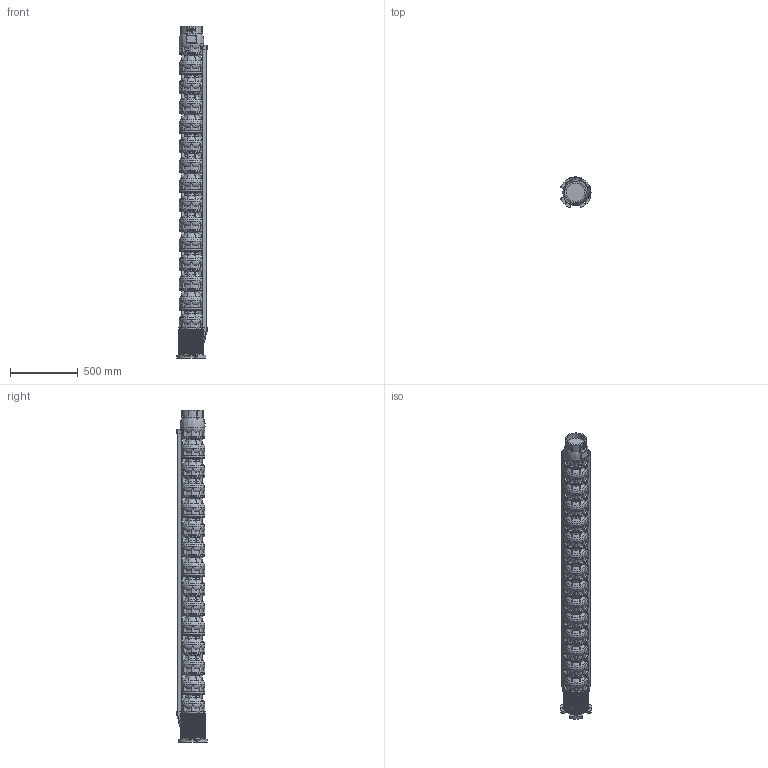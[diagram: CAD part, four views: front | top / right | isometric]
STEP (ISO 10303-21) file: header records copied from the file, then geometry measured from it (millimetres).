
FILE_DESCRIPTION(/* description */ ('Unknown'),/* implementation_level */ '2;1');
FILE_NAME(/* name */ 'VSI134-14_WR_M10-50_SME',/* time_stamp */ '2023-09-14T14:58:02+02:00',/* author */ ('Unknown'),/* organization */ ('Unknown'),/* preprocessor_version */ 'ST-DEVELOPER v18.102',/* originating_system */ 'Solid Edge',/* authorisation */ 'Unknown');
FILE_SCHEMA (('AP203_CONFIGURATION_CONTROLLED_3D_DESIGN_OF_MECHANICAL_PARTS_AND_ASSEMBLIES_MIM_LF { 1 0 10303 203 3 1 4 }','AUTOMOTIVE_DESIGN {1 0 10303 214 3 1 1}'));
Products named in the file (12): VSI134-14_WR_M10-50_SME; VSI134_testata; VSI134_diffusore; VSI134_supporto_8×8; VSI134_adattatore_8×10; VSI134_filtro_A; VSI134_filtro_B; VSI134_terminale_top_copricavo_medio; VSI134_terminale_bottom_copricavo_medio; MID 134-14; M5X8_UNI7687; VSI134_giunto_8×10
Assembly tree (38 placements, depth 2):
  VSI134-14_WR_M10-50_SME
    VSI134_testata
    VSI134_diffusore  x14
    VSI134_supporto_8×8
    VSI134_adattatore_8×10
    VSI134_filtro_A
    VSI134_filtro_B
    VSI134_terminale_top_copricavo_medio  x2
    VSI134_terminale_bottom_copricavo_medio  x2
    MID 134-14  x2
    M5X8_UNI7687  x12
    VSI134_giunto_8×10
Bounding box: 221.78 x 221.78 x 2448 mm (x, y, z)
Volume: 45610315.4 mm3; surface area: 4138524.4 mm2
Topology: 77 solids, 79 shells, 4947 faces, 13905 edges, 9284 vertices
Faces by surface type: plane 3525, torus 658, cylinder 648, cone 71, bspline 31, sphere 14
Full cylindrical faces by diameter (mm): 2.4 x2, 3 x2, 4.2 x16, 5 x12, 5.5 x8, 14 x4, 16 x4, 17.5 x4, 26 x1, 30 x4, 44 x1, 65 x1, 69 x1, 74 x1, 84 x1, 98 x1, 127 x2, 135.472 x1, 157 x1, 182 x15
Entity records: 85387 total; most frequent: CARTESIAN_POINT 18303, ORIENTED_EDGE 13946, DIRECTION 13470, EDGE_CURVE 6973, VERTEX_POINT 4707, AXIS2_PLACEMENT_3D 4613, LINE 4244, VECTOR 4244
